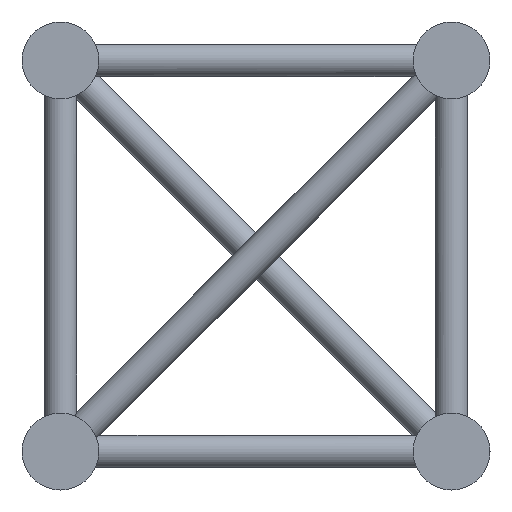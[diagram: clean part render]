
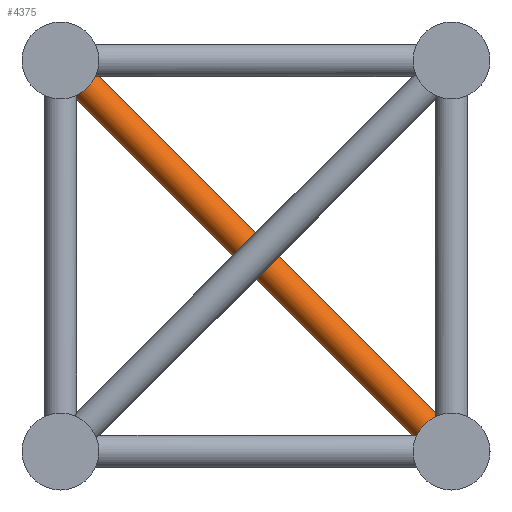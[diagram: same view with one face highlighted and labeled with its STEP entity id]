
A CAD part, left-side view. The second image highlights one B-rep face of the part: STEP entity #4375.
In plain terms, the highlighted cylindrical face has radius 12.5 mm (diameter 25 mm), a full revolution.
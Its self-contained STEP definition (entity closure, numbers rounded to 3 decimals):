
#58=B_SPLINE_CURVE_WITH_KNOTS('',3,(#6500,#6501,#6502,#6503,#6504,#6505),
 .UNSPECIFIED.,.F.,.F.,(4,2,4),(5.757,5.766,5.774),
 .UNSPECIFIED.);
#59=B_SPLINE_CURVE_WITH_KNOTS('',3,(#6506,#6507,#6508,#6509,#6510,#6511),
 .UNSPECIFIED.,.F.,.F.,(4,2,4),(1.913,1.922,1.93),
 .UNSPECIFIED.);
#644=FACE_BOUND('',#1250,.T.);
#980=FACE_OUTER_BOUND('',#1249,.T.);
#1249=EDGE_LOOP('',(#3077,#3078,#3079,#3080));
#1250=EDGE_LOOP('',(#3081,#3082));
#1778=CIRCLE('',#4738,12.5);
#1779=CIRCLE('',#4740,12.5);
#1780=CIRCLE('',#4742,12.5);
#1781=CIRCLE('',#4744,12.5);
#1970=VERTEX_POINT('',#6485);
#1971=VERTEX_POINT('',#6486);
#1972=VERTEX_POINT('',#6490);
#1973=VERTEX_POINT('',#6491);
#1974=VERTEX_POINT('',#6495);
#1975=VERTEX_POINT('',#6496);
#2419=EDGE_CURVE('',#1970,#1971,#1778,.T.);
#2421=EDGE_CURVE('',#1972,#1973,#1779,.T.);
#2423=EDGE_CURVE('',#1974,#1975,#1780,.T.);
#2424=EDGE_CURVE('',#1973,#1970,#58,.T.);
#2425=EDGE_CURVE('',#1971,#1972,#59,.T.);
#2426=EDGE_CURVE('',#1975,#1974,#1781,.T.);
#3077=ORIENTED_EDGE('',*,*,#2424,.F.);
#3078=ORIENTED_EDGE('',*,*,#2421,.F.);
#3079=ORIENTED_EDGE('',*,*,#2425,.F.);
#3080=ORIENTED_EDGE('',*,*,#2419,.F.);
#3081=ORIENTED_EDGE('',*,*,#2423,.F.);
#3082=ORIENTED_EDGE('',*,*,#2426,.F.);
#3961=CYLINDRICAL_SURFACE('',#4743,12.5);
#4375=ADVANCED_FACE('',(#980,#644),#3961,.T.);
#4738=AXIS2_PLACEMENT_3D('',#6488,#5421,#5422);
#4740=AXIS2_PLACEMENT_3D('',#6493,#5426,#5427);
#4742=AXIS2_PLACEMENT_3D('',#6498,#5431,#5432);
#4743=AXIS2_PLACEMENT_3D('',#6499,#5433,#5434);
#4744=AXIS2_PLACEMENT_3D('',#6512,#5435,#5436);
#5421=DIRECTION('center_axis',(0.,-0.707,
-0.707));
#5422=DIRECTION('ref_axis',(-1.,0.,0.));
#5426=DIRECTION('center_axis',(0.,-0.707,
-0.707));
#5427=DIRECTION('ref_axis',(-1.,0.,0.));
#5431=DIRECTION('center_axis',(0.,0.707,0.707));
#5432=DIRECTION('ref_axis',(-1.,0.,0.));
#5433=DIRECTION('center_axis',(0.,0.707,0.707));
#5434=DIRECTION('ref_axis',(-1.,0.,0.));
#5435=DIRECTION('center_axis',(0.,0.707,0.707));
#5436=DIRECTION('ref_axis',(-1.,0.,0.));
#6485=CARTESIAN_POINT('',(1737.5,17.738,-281.383));
#6486=CARTESIAN_POINT('',(1762.5,17.738,-281.383));
#6488=CARTESIAN_POINT('Origin',(1750.,17.678,-281.322));
#6490=CARTESIAN_POINT('',(1762.5,17.617,-281.262));
#6491=CARTESIAN_POINT('',(1737.5,17.617,-281.262));
#6493=CARTESIAN_POINT('Origin',(1750.,17.678,-281.322));
#6495=CARTESIAN_POINT('',(1762.5,281.322,-17.678));
#6496=CARTESIAN_POINT('',(1737.5,281.322,-17.678));
#6498=CARTESIAN_POINT('Origin',(1750.,281.322,-17.678));
#6499=CARTESIAN_POINT('Origin',(1750.,17.678,-281.322));
#6500=CARTESIAN_POINT('Ctrl Pts',(1737.5,17.617,-281.262));
#6501=CARTESIAN_POINT('Ctrl Pts',(1737.5,17.638,-281.282));
#6502=CARTESIAN_POINT('Ctrl Pts',(1737.5,17.658,-281.302));
#6503=CARTESIAN_POINT('Ctrl Pts',(1737.5,17.698,-281.342));
#6504=CARTESIAN_POINT('Ctrl Pts',(1737.5,17.718,-281.362));
#6505=CARTESIAN_POINT('Ctrl Pts',(1737.5,17.738,-281.383));
#6506=CARTESIAN_POINT('Ctrl Pts',(1762.5,17.738,-281.383));
#6507=CARTESIAN_POINT('Ctrl Pts',(1762.5,17.718,-281.362));
#6508=CARTESIAN_POINT('Ctrl Pts',(1762.5,17.698,-281.342));
#6509=CARTESIAN_POINT('Ctrl Pts',(1762.5,17.658,-281.302));
#6510=CARTESIAN_POINT('Ctrl Pts',(1762.5,17.638,-281.282));
#6511=CARTESIAN_POINT('Ctrl Pts',(1762.5,17.617,-281.262));
#6512=CARTESIAN_POINT('Origin',(1750.,281.322,-17.678));
